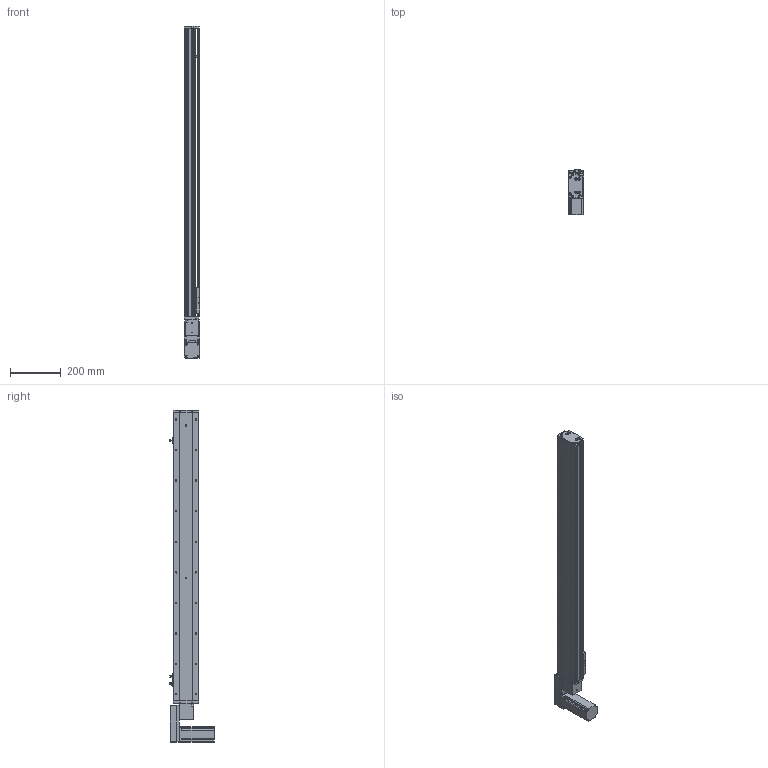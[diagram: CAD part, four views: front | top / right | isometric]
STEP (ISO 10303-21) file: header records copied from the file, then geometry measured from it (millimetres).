
FILE_DESCRIPTION (( 'STEP AP214' ), '1' );
FILE_NAME ('KSD100B-S950-MLB-CM.STEP', '2019-11-09T03:00:21', ( '微软用户' ), ( '微软中国' ), 'SwSTEP 2.0', 'SolidWorks 2014', '' );
FILE_SCHEMA (( 'AUTOMOTIVE_DESIGN' ));
Length unit declared in the file: millimetre
Products named in the file (12): 悵誘欶奻狟殏; 100宽马达安装板连板上下折丝杆同步带; 台达ECMA－C20604AS伺服电机; U倰嫖萇EEㄜSX672; 覜茼え100遵圉猾敕; 100宽防尘板950行程-同步带; 100宽马达安装板同步带左; 100宽同步带安装板半封闭; 100宽马达安装板同步带; 100遵傷啣肮祭湍; 100宽底板半封闭同步带950行程; KSD100B-S950-MLB-CM
Assembly tree (13 placements, depth 2):
  KSD100B-S950-MLB-CM
    100宽底板半封闭同步带950行程
    100遵傷啣肮祭湍
    100宽马达安装板同步带
    100宽同步带安装板半封闭
    100宽马达安装板同步带左
    100宽防尘板950行程-同步带
    覜茼え100遵圉猾敕
    U倰嫖萇EEㄜSX672  x3
    台达ECMA－C20604AS伺服电机
    100宽马达安装板连板上下折丝杆同步带
    悵誘欶奻狟殏
Bounding box: 61 x 174.7 x 1303 mm (x, y, z)
Volume: 2796619.4 mm3; surface area: 925706.2 mm2
Topology: 14 solids, 14 shells, 1461 faces, 4112 edges, 2617 vertices
Faces by surface type: cylinder 735, plane 591, cone 135
Entity records: 51949 total; most frequent: CARTESIAN_POINT 10286, DIRECTION 7128, ORIENTED_EDGE 6860, EDGE_CURVE 3430, AXIS2_PLACEMENT_3D 2605, VERTEX_POINT 2241, LINE 1918, VECTOR 1918
